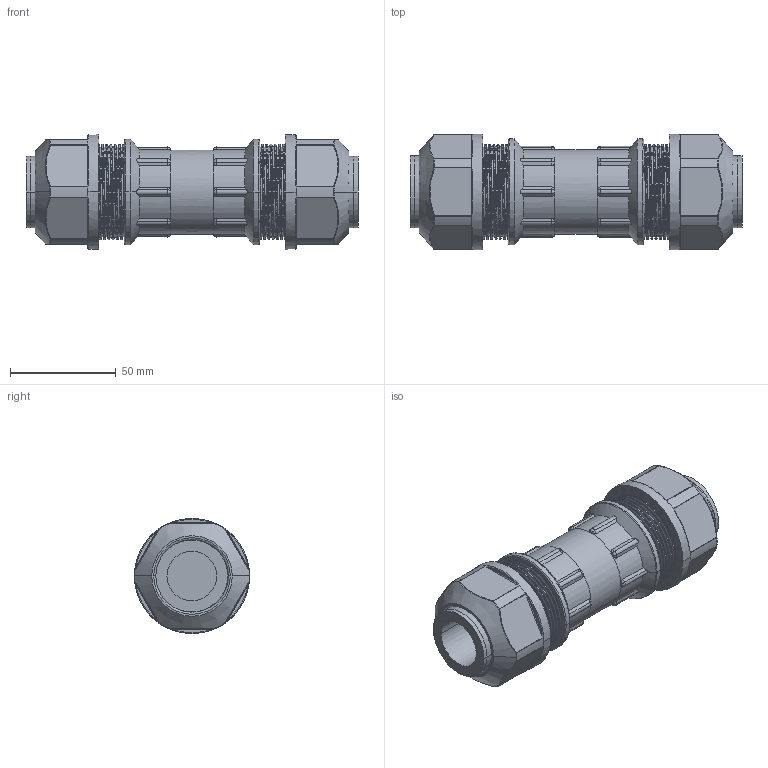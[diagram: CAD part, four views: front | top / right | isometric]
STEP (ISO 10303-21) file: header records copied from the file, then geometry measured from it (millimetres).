
FILE_DESCRIPTION(('Creo Elements/Direct Modeling STEP Export'),'2;1');
FILE_NAME('H08-0007-CL901-01_OA-QW30SN.stp','2012-09-19T14:41:20',(''),(''),'Creo Elements/Direct Modeling STEP processor for AP214 (Solid Model)','Creo Elements/Direct Modeling 18.0B 02-Dec-2011 (C) Parametric Technology GmbH','');
FILE_SCHEMA(('AUTOMOTIVE_DESIGN { 1 0 10303 214 1 1 1 1 }'));
Length unit declared in the file: millimetre
Products named in the file (10): OA-QW30SN_本体; G36-30A_R; G36-30B_R; G36-30; R側; G36-30A_L; G36-30B_L; L側; OA-QW30SN
Assembly tree (9 placements, depth 4):
  OA-QW30SN
    L側
      G36-30
        G36-30B_L
        G36-30A_L
    R側
      G36-30
        G36-30B_R
        G36-30A_R
    OA-QW30SN_本体
Bounding box: 157 x 54.48 x 54.42 mm (x, y, z)
Volume: 32904.3 mm3; surface area: 88217.5 mm2
Topology: 4 solids, 5 shells, 726 faces, 1717 edges, 1050 vertices
Faces by surface type: cylinder 308, plane 201, bspline 117, cone 44, torus 40, sphere 16
Entity records: 36209 total; most frequent: CARTESIAN_POINT 21865, ORIENTED_EDGE 3382, DIRECTION 2336, EDGE_CURVE 1691, VERTEX_POINT 1050, AXIS2_PLACEMENT_3D 938, EDGE_LOOP 791, FACE_OUTER_BOUND 710
